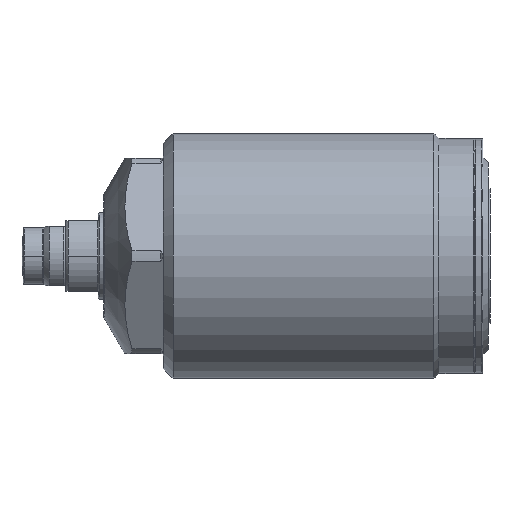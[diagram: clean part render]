
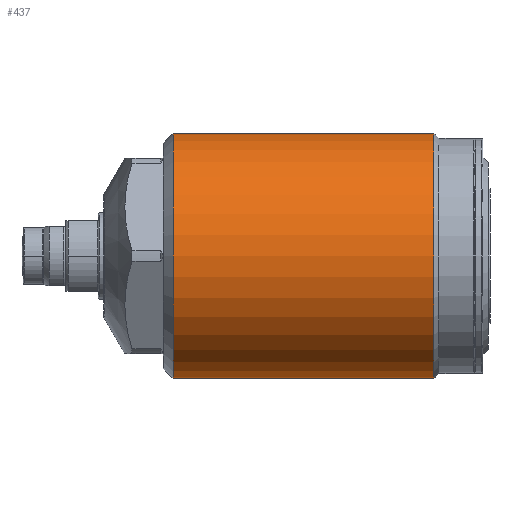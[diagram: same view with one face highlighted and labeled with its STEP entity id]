
A CAD part, left-side view. The second image highlights one B-rep face of the part: STEP entity #437.
In plain terms, the highlighted cylindrical face has radius 22.5 mm (diameter 45 mm), a partial arc.
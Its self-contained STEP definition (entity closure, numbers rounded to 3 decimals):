
#437=ADVANCED_FACE('',(#651),#574,.T.);
#574=CYLINDRICAL_SURFACE('',#2854,22.5);
#651=FACE_OUTER_BOUND('',#801,.T.);
#801=EDGE_LOOP('',(#1413,#1414,#1415,#1416));
#967=LINE('',#4214,#1081);
#968=LINE('',#4215,#1082);
#1081=VECTOR('',#3325,1.);
#1082=VECTOR('',#3326,1.);
#1413=ORIENTED_EDGE('',*,*,#2237,.T.);
#1414=ORIENTED_EDGE('',*,*,#2300,.T.);
#1415=ORIENTED_EDGE('',*,*,#2238,.F.);
#1416=ORIENTED_EDGE('',*,*,#2301,.T.);
#1973=VERTEX_POINT('',#4194);
#1974=VERTEX_POINT('',#4196);
#1979=VERTEX_POINT('',#4212);
#1980=VERTEX_POINT('',#4213);
#2237=EDGE_CURVE('',#1974,#1980,#967,.T.);
#2238=EDGE_CURVE('',#1973,#1979,#968,.T.);
#2300=EDGE_CURVE('',#1980,#1979,#2592,.T.);
#2301=EDGE_CURVE('',#1973,#1974,#2593,.T.);
#2592=CIRCLE('',#2851,22.5);
#2593=CIRCLE('',#2853,22.5);
#2851=AXIS2_PLACEMENT_3D('',#4397,#3415,#3416);
#2853=AXIS2_PLACEMENT_3D('',#4399,#3419,#3420);
#2854=AXIS2_PLACEMENT_3D('',#4400,#3421,#3422);
#3325=DIRECTION('',(0.,1.,0.));
#3326=DIRECTION('',(0.,1.,0.));
#3415=DIRECTION('',(0.,-1.,0.));
#3416=DIRECTION('',(0.,0.,1.));
#3419=DIRECTION('',(0.,1.,0.));
#3420=DIRECTION('',(0.,0.,-1.));
#3421=DIRECTION('',(0.,-1.,0.));
#3422=DIRECTION('',(0.,0.,1.));
#4194=CARTESIAN_POINT('',(0.,7.5,-22.5));
#4196=CARTESIAN_POINT('',(0.,7.5,22.5));
#4212=CARTESIAN_POINT('',(0.,55.45,-22.5));
#4213=CARTESIAN_POINT('',(0.,55.45,22.5));
#4214=CARTESIAN_POINT('',(0.,68.2,22.5));
#4215=CARTESIAN_POINT('',(0.,68.2,-22.5));
#4397=CARTESIAN_POINT('',(0.,55.45,0.));
#4399=CARTESIAN_POINT('',(0.,7.5,0.));
#4400=CARTESIAN_POINT('',(0.,68.2,0.));
